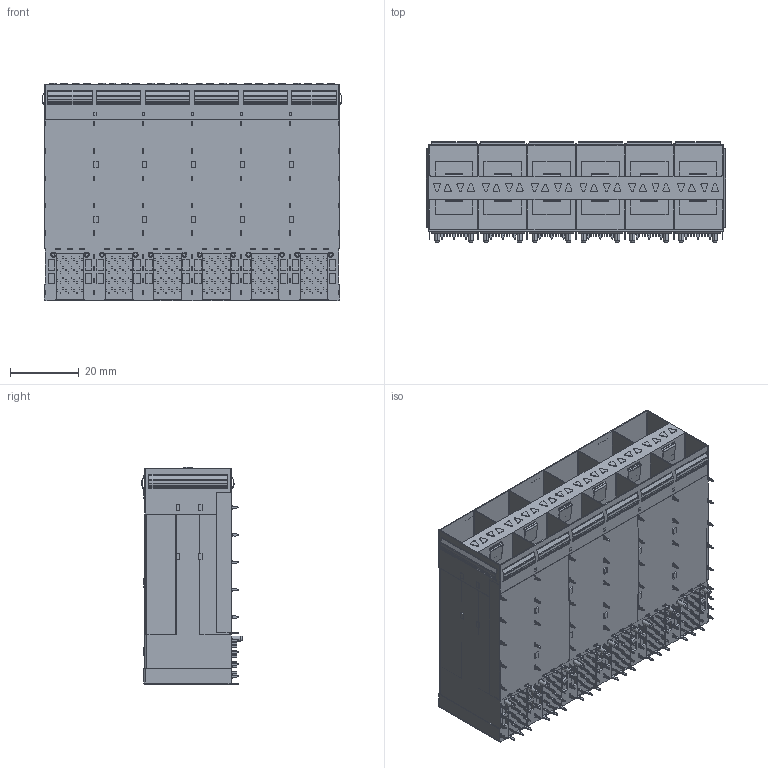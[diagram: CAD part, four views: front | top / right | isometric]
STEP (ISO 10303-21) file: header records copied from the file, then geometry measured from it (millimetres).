
FILE_DESCRIPTION (( 'STEP AP214' ), '1' );
FILE_NAME ('SFP28 2X6 内外导光柱.STEP', '2025-03-27T00:58:24', ( '桑三博客' ), ( 'Www.SangSan.Cn' ), 'SwSTEP 2.0', 'SolidWorks 2018', '' );
FILE_SCHEMA (( 'AUTOMOTIVE_DESIGN' ));
Length unit declared in the file: millimetre
Products named in the file (1): SFP28 2X6 囀俋絳嫖翐
Bounding box: 87.56 x 29.38 x 63.5 mm (x, y, z)
Volume: 69819 mm3; surface area: 49872.6 mm2
Topology: 1 solids, 1 shells, 4472 faces, 12423 edges, 8390 vertices
Faces by surface type: plane 3084, cylinder 1362, cone 24, sphere 2
Entity records: 143223 total; most frequent: CARTESIAN_POINT 25284, ORIENTED_EDGE 24842, DIRECTION 24119, EDGE_CURVE 12421, VECTOR 9669, LINE 9669, VERTEX_POINT 8390, AXIS2_PLACEMENT_3D 7225
